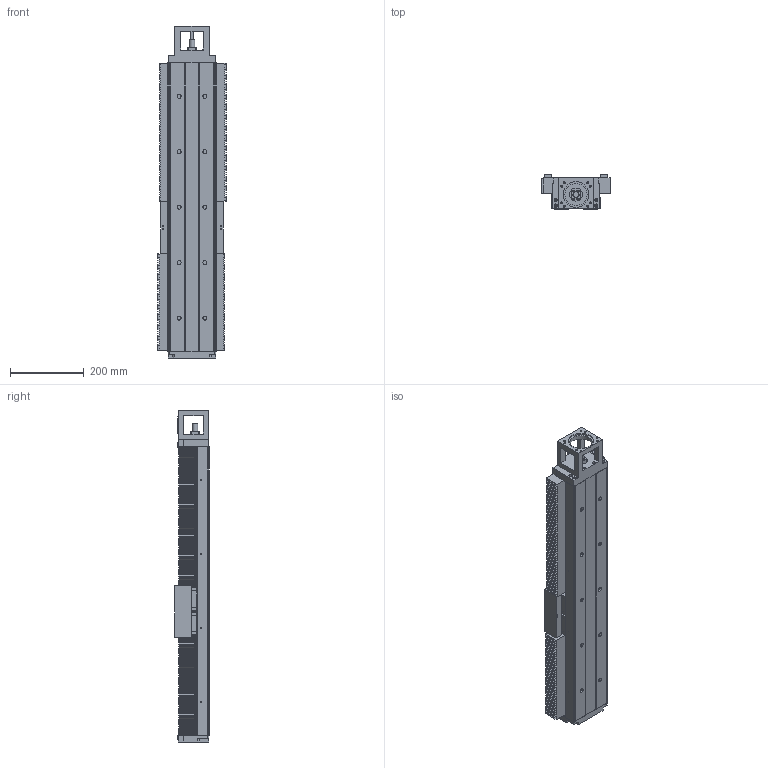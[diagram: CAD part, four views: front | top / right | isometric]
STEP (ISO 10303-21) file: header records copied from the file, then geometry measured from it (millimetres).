
FILE_DESCRIPTION(/* description */ (''),/* implementation_level */ '2;1');
FILE_NAME(/* name */ 'TKK130-780A1F0B_stp.stp',/* time_stamp */ '2017-08-18T09:55:31+08:00',/* author */ (''),/* organization */ (''),/* preprocessor_version */ 'ST-DEVELOPER v15',/* originating_system */ 'SIEMENS PLM Software NX 8.5',/* authorisation */ '');
FILE_SCHEMA (('AUTOMOTIVE_DESIGN { 1 0 10303 214 3 1 1 1 }'));
Length unit declared in the file: millimetre
Products named in the file (3): 022; 011; TKK130-780A1F0B_stp
Assembly tree (2 placements, depth 2):
  TKK130-780A1F0B_stp
    011
    022
Bounding box: 184 x 92 x 898 mm (x, y, z)
Volume: 8757149.8 mm3; surface area: 1105768.2 mm2
Topology: 5 solids, 15 shells, 1945 faces, 4836 edges, 2974 vertices
Faces by surface type: plane 1544, cylinder 272, cone 89, extrusion 33, bspline 6, torus 1
Full cylindrical faces by diameter (mm): 2.1 x8, 2.5 x8, 3.3 x26, 4.5 x20, 5 x23, 6.6 x10, 6.8 x12, 7 x2, 8 x16, 8.5 x4, 9 x8, 11 x18, 12 x4, 15 x1, 16.3 x1, 17 x12, 17.5 x4, 25 x1, 35 x2, 40 x3, 60.03 x1, 70.03 x1
Entity records: 55977 total; most frequent: CARTESIAN_POINT 10918, ORIENTED_EDGE 8778, DIRECTION 8733, EDGE_CURVE 4389, VECTOR 3683, LINE 3650, VERTEX_POINT 2866, AXIS2_PLACEMENT_3D 2525
